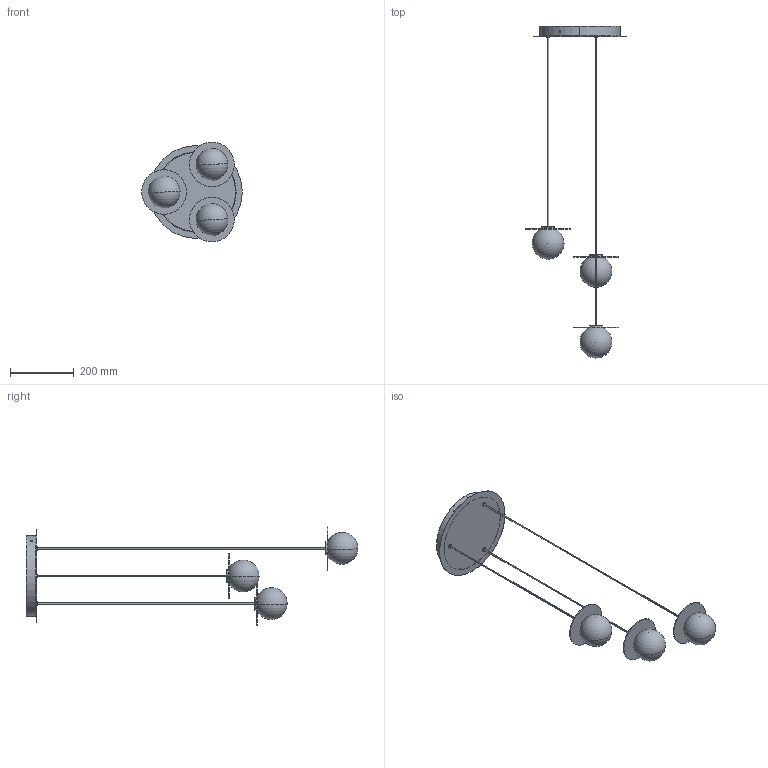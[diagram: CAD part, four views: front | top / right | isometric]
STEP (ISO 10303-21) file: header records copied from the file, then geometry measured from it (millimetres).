
FILE_DESCRIPTION (( 'STEP AP203' ), '1' );
FILE_NAME ('SPKI1003XXXXXXX-PER 3D.STEP', '2025-06-25T08:56:01', ( '' ), ( '' ), 'SwSTEP 2.0', 'SolidWorks 2024', '' );
FILE_SCHEMA (( 'CONFIG_CONTROL_DESIGN' ));
Length unit declared in the file: millimetre
Products named in the file (14): WSCM2A0156-0700-01; CAVO NL2CN; PENDENTE SPKI1001-00; WSCM2C0201-0700-02_WSCM2C0201-0700-02; WSASS-000000058-00; SPKI1003XXXXXXX-PER 3D; WSVAXXX0100BC7XX00; WSCM2F0026-0100-01_Default<按加工>; WSCM2C0184-0100-00; WSM2G1522-FR------
Assembly tree (21 placements, depth 3):
  SPKI1003XXXXXXX-PER 3D
    WSASS-000000058-00
      WSCM2F0026-0100-01_Default<按加工>
      WSCM2C0184-0100-00
      WSM2G1522-FR------  x3
    PENDENTE SPKI1001-00
      WSCM2C0201-0700-02_WSCM2C0201-0700-02
      WSVAXXX0100BC7XX00
      CAVO NL2CN
      WSCM2A0156-0700-01
    PENDENTE SPKI1001-00
      WSCM2C0201-0700-02_WSCM2C0201-0700-02
      WSVAXXX0100BC7XX00
      CAVO NL2CN
      WSCM2A0156-0700-01
    PENDENTE SPKI1001-00
      WSCM2C0201-0700-02_WSCM2C0201-0700-02
      WSVAXXX0100BC7XX00
      CAVO NL2CN
      WSCM2A0156-0700-01
Bounding box: 315 x 1040.32 x 313.21 mm (x, y, z)
Volume: 625656.2 mm3; surface area: 588002.2 mm2
Topology: 17 solids, 17 shells, 297 faces, 698 edges, 436 vertices
Faces by surface type: cylinder 126, cone 84, plane 71, sphere 12, torus 4
Entity records: 6076 total; most frequent: CARTESIAN_POINT 1059, DIRECTION 780, ORIENTED_EDGE 624, AXIS2_PLACEMENT_3D 319, EDGE_CURVE 312, VERTEX_POINT 198, EDGE_LOOP 176, CIRCLE 154
